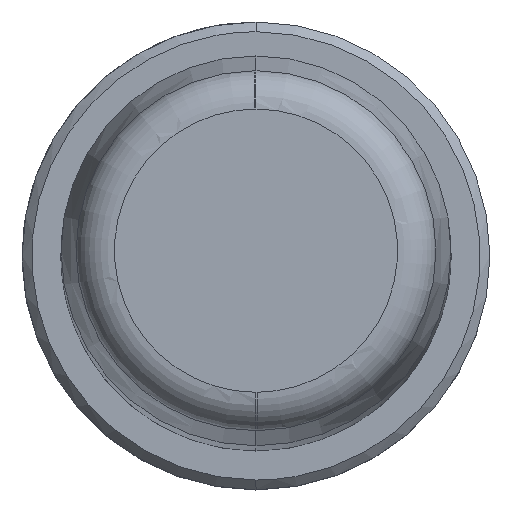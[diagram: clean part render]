
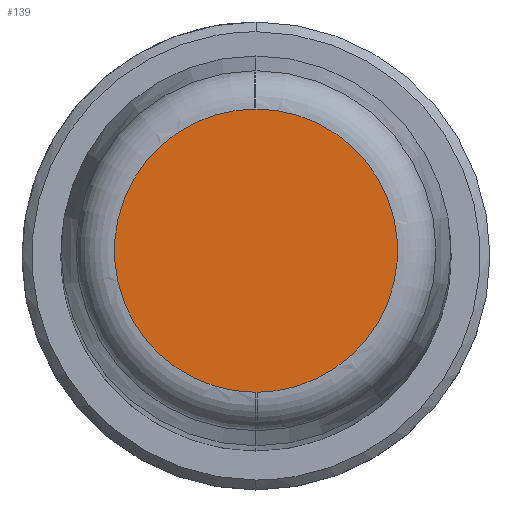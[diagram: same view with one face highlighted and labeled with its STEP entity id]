
A CAD part, top view. The second image highlights one B-rep face of the part: STEP entity #139.
In plain terms, the highlighted planar face has unit normal (0, 0, 1).
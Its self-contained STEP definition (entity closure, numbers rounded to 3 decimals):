
#52=CARTESIAN_POINT('Axis2P3D Location',(0.,0.,160.)) ;
#58=CARTESIAN_POINT('Control Point',(0.057,-7.264,160.)) ;
#59=CARTESIAN_POINT('Control Point',(0.045,-7.264,160.)) ;
#60=CARTESIAN_POINT('Control Point',(0.034,-7.264,160.)) ;
#61=CARTESIAN_POINT('Control Point',(0.023,-7.264,160.)) ;
#62=CARTESIAN_POINT('Control Point',(0.011,-7.264,160.)) ;
#63=CARTESIAN_POINT('Control Point',(0.,-7.264,160.)) ;
#64=CARTESIAN_POINT('Vertex',(0.057,-7.264,160.)) ;
#66=CARTESIAN_POINT('Vertex',(0.,-7.264,160.)) ;
#70=CARTESIAN_POINT('Control Point',(0.,7.264,160.)) ;
#71=CARTESIAN_POINT('Control Point',(0.66,7.264,160.)) ;
#72=CARTESIAN_POINT('Control Point',(1.32,7.189,160.)) ;
#73=CARTESIAN_POINT('Control Point',(1.969,7.039,160.)) ;
#74=CARTESIAN_POINT('Control Point',(3.221,6.594,160.)) ;
#75=CARTESIAN_POINT('Control Point',(4.342,5.88,160.)) ;
#76=CARTESIAN_POINT('Control Point',(4.859,5.46,160.)) ;
#77=CARTESIAN_POINT('Control Point',(5.789,4.511,160.)) ;
#78=CARTESIAN_POINT('Control Point',(6.482,3.377,160.)) ;
#79=CARTESIAN_POINT('Control Point',(6.763,2.773,160.)) ;
#80=CARTESIAN_POINT('Control Point',(7.181,1.512,160.)) ;
#81=CARTESIAN_POINT('Control Point',(7.307,0.189,160.)) ;
#82=CARTESIAN_POINT('Control Point',(7.294,-0.477,160.)) ;
#83=CARTESIAN_POINT('Control Point',(7.116,-1.794,160.)) ;
#84=CARTESIAN_POINT('Control Point',(6.648,-3.037,160.)) ;
#85=CARTESIAN_POINT('Control Point',(6.344,-3.63,160.)) ;
#86=CARTESIAN_POINT('Control Point',(5.607,-4.735,160.)) ;
#87=CARTESIAN_POINT('Control Point',(4.64,-5.647,160.)) ;
#88=CARTESIAN_POINT('Control Point',(4.107,-6.046,160.)) ;
#89=CARTESIAN_POINT('Control Point',(3.019,-6.681,160.)) ;
#90=CARTESIAN_POINT('Control Point',(1.822,-7.069,160.)) ;
#91=CARTESIAN_POINT('Control Point',(1.239,-7.194,160.)) ;
#92=CARTESIAN_POINT('Control Point',(0.648,-7.259,160.)) ;
#93=CARTESIAN_POINT('Control Point',(0.057,-7.264,160.)) ;
#94=CARTESIAN_POINT('Vertex',(0.,7.264,160.)) ;
#98=CARTESIAN_POINT('Control Point',(-0.057,7.264,160.)) ;
#99=CARTESIAN_POINT('Control Point',(-0.045,7.264,160.)) ;
#100=CARTESIAN_POINT('Control Point',(-0.034,7.264,160.)) ;
#101=CARTESIAN_POINT('Control Point',(-0.023,7.264,160.)) ;
#102=CARTESIAN_POINT('Control Point',(-0.011,7.264,160.)) ;
#103=CARTESIAN_POINT('Control Point',(0.,7.264,160.)) ;
#104=CARTESIAN_POINT('Vertex',(-0.057,7.264,160.)) ;
#108=CARTESIAN_POINT('Control Point',(0.,-7.264,160.)) ;
#109=CARTESIAN_POINT('Control Point',(-0.66,-7.264,160.)) ;
#110=CARTESIAN_POINT('Control Point',(-1.32,-7.189,160.)) ;
#111=CARTESIAN_POINT('Control Point',(-1.969,-7.039,160.)) ;
#112=CARTESIAN_POINT('Control Point',(-3.221,-6.594,160.)) ;
#113=CARTESIAN_POINT('Control Point',(-4.342,-5.88,160.)) ;
#114=CARTESIAN_POINT('Control Point',(-4.859,-5.46,160.)) ;
#115=CARTESIAN_POINT('Control Point',(-5.789,-4.511,160.)) ;
#116=CARTESIAN_POINT('Control Point',(-6.482,-3.377,160.)) ;
#117=CARTESIAN_POINT('Control Point',(-6.763,-2.773,160.)) ;
#118=CARTESIAN_POINT('Control Point',(-7.181,-1.512,160.)) ;
#119=CARTESIAN_POINT('Control Point',(-7.307,-0.189,160.)) ;
#120=CARTESIAN_POINT('Control Point',(-7.294,0.477,160.)) ;
#121=CARTESIAN_POINT('Control Point',(-7.116,1.794,160.)) ;
#122=CARTESIAN_POINT('Control Point',(-6.648,3.037,160.)) ;
#123=CARTESIAN_POINT('Control Point',(-6.344,3.63,160.)) ;
#124=CARTESIAN_POINT('Control Point',(-5.607,4.735,160.)) ;
#125=CARTESIAN_POINT('Control Point',(-4.64,5.647,160.)) ;
#126=CARTESIAN_POINT('Control Point',(-4.107,6.046,160.)) ;
#127=CARTESIAN_POINT('Control Point',(-3.019,6.681,160.)) ;
#128=CARTESIAN_POINT('Control Point',(-1.822,7.069,160.)) ;
#129=CARTESIAN_POINT('Control Point',(-1.239,7.194,160.)) ;
#130=CARTESIAN_POINT('Control Point',(-0.648,7.259,160.)) ;
#131=CARTESIAN_POINT('Control Point',(-0.057,7.264,160.)) ;
#53=DIRECTION('Axis2P3D Direction',(0.,0.,1.)) ;
#54=DIRECTION('Axis2P3D XDirection',(0.,-1.,0.)) ;
#55=AXIS2_PLACEMENT_3D('Plane Axis2P3D',#52,#53,#54) ;
#134=ORIENTED_EDGE('',*,*,#68,.F.) ;
#135=ORIENTED_EDGE('',*,*,#96,.F.) ;
#136=ORIENTED_EDGE('',*,*,#106,.F.) ;
#137=ORIENTED_EDGE('',*,*,#132,.F.) ;
#139=ADVANCED_FACE('MANIFOLD_SOLID_BREP #450',(#138),#56,.T.) ;
#57=B_SPLINE_CURVE_WITH_KNOTS('',5,(#58,#59,#60,#61,#62,#63),.UNSPECIFIED.,.F.,.U.,(6,6),(32.192,32.272),.UNSPECIFIED.) ;
#69=B_SPLINE_CURVE_WITH_KNOTS('',5,(#70,#71,#72,#73,#74,#75,#76,#77,#78,#79,#80,#81,#82,#83,#84,#85,#86,#87,#88,#89,#90,#91,#92,#93),.UNSPECIFIED.,.F.,.U.,(6,3,3,3,3,3,3,6),(0.,4.668,9.336,14.004,18.672,23.341,28.009,32.192),.UNSPECIFIED.) ;
#97=B_SPLINE_CURVE_WITH_KNOTS('',5,(#98,#99,#100,#101,#102,#103),.UNSPECIFIED.,.F.,.U.,(6,6),(32.192,32.272),.UNSPECIFIED.) ;
#107=B_SPLINE_CURVE_WITH_KNOTS('',5,(#108,#109,#110,#111,#112,#113,#114,#115,#116,#117,#118,#119,#120,#121,#122,#123,#124,#125,#126,#127,#128,#129,#130,#131),.UNSPECIFIED.,.F.,.U.,(6,3,3,3,3,3,3,6),(0.,4.668,9.336,14.004,18.672,23.341,28.009,32.192),.UNSPECIFIED.) ;
#68=EDGE_CURVE('',#65,#67,#57,.T.) ;
#96=EDGE_CURVE('',#95,#65,#69,.T.) ;
#106=EDGE_CURVE('',#105,#95,#97,.T.) ;
#132=EDGE_CURVE('',#67,#105,#107,.T.) ;
#133=EDGE_LOOP('',(#134,#135,#136,#137)) ;
#138=FACE_OUTER_BOUND('',#133,.T.) ;
#56=PLANE('Plane',#55) ;
#65=VERTEX_POINT('',#64) ;
#67=VERTEX_POINT('',#66) ;
#95=VERTEX_POINT('',#94) ;
#105=VERTEX_POINT('',#104) ;
